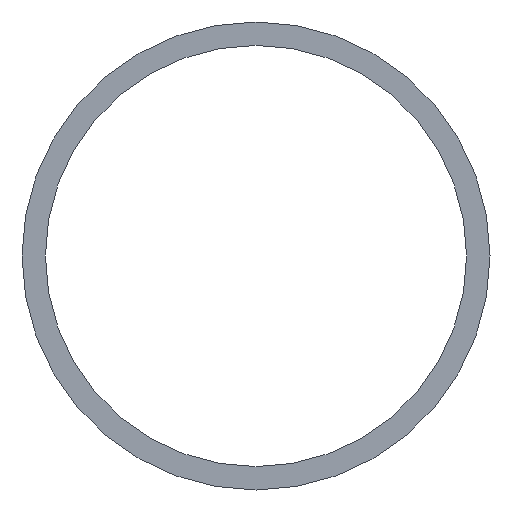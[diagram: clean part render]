
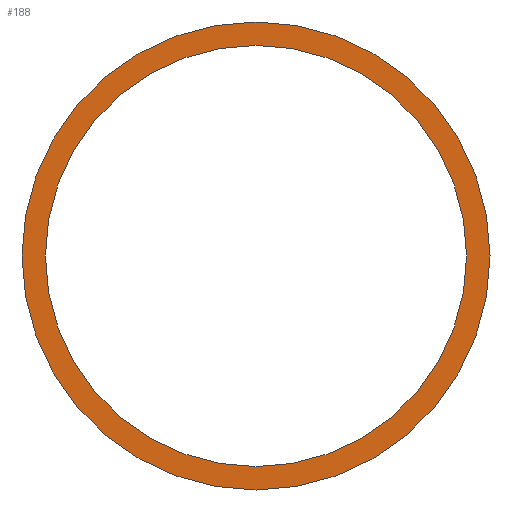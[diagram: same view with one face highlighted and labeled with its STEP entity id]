
A CAD part, front view. The second image highlights one B-rep face of the part: STEP entity #188.
In plain terms, the highlighted planar face has unit normal (0, -1, 0).
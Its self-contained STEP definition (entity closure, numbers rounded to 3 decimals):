
#1 = AXIS2_PLACEMENT_3D ( 'NONE', #81, #58, #150 ) ;
#4 = CARTESIAN_POINT ( 'NONE',  ( 0., 0., 0. ) ) ;
#11 = EDGE_CURVE ( 'NONE', #66, #193, #33, .T. ) ;
#26 = DIRECTION ( 'NONE',  ( 0., 1., 0. ) ) ;
#29 = DIRECTION ( 'NONE',  ( 0., 0., 1. ) ) ;
#33 = CIRCLE ( 'NONE', #1, 18. ) ;
#42 = CARTESIAN_POINT ( 'NONE',  ( 0., 0., 0. ) ) ;
#54 = AXIS2_PLACEMENT_3D ( 'NONE', #196, #57, #122 ) ;
#57 = DIRECTION ( 'NONE',  ( 0., 1., 0. ) ) ;
#58 = DIRECTION ( 'NONE',  ( 0., 1., 0. ) ) ;
#60 = DIRECTION ( 'NONE',  ( 0., 0., 1. ) ) ;
#66 = VERTEX_POINT ( 'NONE', #170 ) ;
#68 = CIRCLE ( 'NONE', #54, 20. ) ;
#75 = CARTESIAN_POINT ( 'NONE',  ( 0., 0., 0. ) ) ;
#81 = CARTESIAN_POINT ( 'NONE',  ( 0., 0., 0. ) ) ;
#86 = ORIENTED_EDGE ( 'NONE', *, *, #117, .F. ) ;
#88 = CARTESIAN_POINT ( 'NONE',  ( 0., 0., -20. ) ) ;
#91 = CARTESIAN_POINT ( 'NONE',  ( 0., 0., -18. ) ) ;
#96 = EDGE_LOOP ( 'NONE', ( #86, #204 ) ) ;
#103 = DIRECTION ( 'NONE',  ( 0., 0., 1. ) ) ;
#105 = DIRECTION ( 'NONE',  ( 0., 1., 0. ) ) ;
#106 = DIRECTION ( 'NONE',  ( 0., 1., 0. ) ) ;
#117 = EDGE_CURVE ( 'NONE', #165, #179, #68, .T. ) ;
#119 = EDGE_CURVE ( 'NONE', #179, #165, #187, .T. ) ;
#122 = DIRECTION ( 'NONE',  ( 0., 0., 1. ) ) ;
#125 = FACE_BOUND ( 'NONE', #163, .T. ) ;
#126 = ORIENTED_EDGE ( 'NONE', *, *, #11, .T. ) ;
#128 = AXIS2_PLACEMENT_3D ( 'NONE', #42, #106, #29 ) ;
#130 = ORIENTED_EDGE ( 'NONE', *, *, #169, .T. ) ;
#143 = FACE_OUTER_BOUND ( 'NONE', #96, .T. ) ;
#150 = DIRECTION ( 'NONE',  ( 0., 0., 1. ) ) ;
#163 = EDGE_LOOP ( 'NONE', ( #130, #126 ) ) ;
#165 = VERTEX_POINT ( 'NONE', #88 ) ;
#169 = EDGE_CURVE ( 'NONE', #193, #66, #214, .T. ) ;
#170 = CARTESIAN_POINT ( 'NONE',  ( 0., 0., 18. ) ) ;
#173 = AXIS2_PLACEMENT_3D ( 'NONE', #4, #105, #60 ) ;
#179 = VERTEX_POINT ( 'NONE', #180 ) ;
#180 = CARTESIAN_POINT ( 'NONE',  ( 0., 0., 20. ) ) ;
#187 = CIRCLE ( 'NONE', #173, 20. ) ;
#188 = ADVANCED_FACE ( 'NONE', ( #143, #125 ), #192, .F. ) ;
#192 = PLANE ( 'NONE',  #128 ) ;
#193 = VERTEX_POINT ( 'NONE', #91 ) ;
#194 = AXIS2_PLACEMENT_3D ( 'NONE', #75, #26, #103 ) ;
#196 = CARTESIAN_POINT ( 'NONE',  ( 0., 0., 0. ) ) ;
#204 = ORIENTED_EDGE ( 'NONE', *, *, #119, .F. ) ;
#214 = CIRCLE ( 'NONE', #194, 18. ) ;
